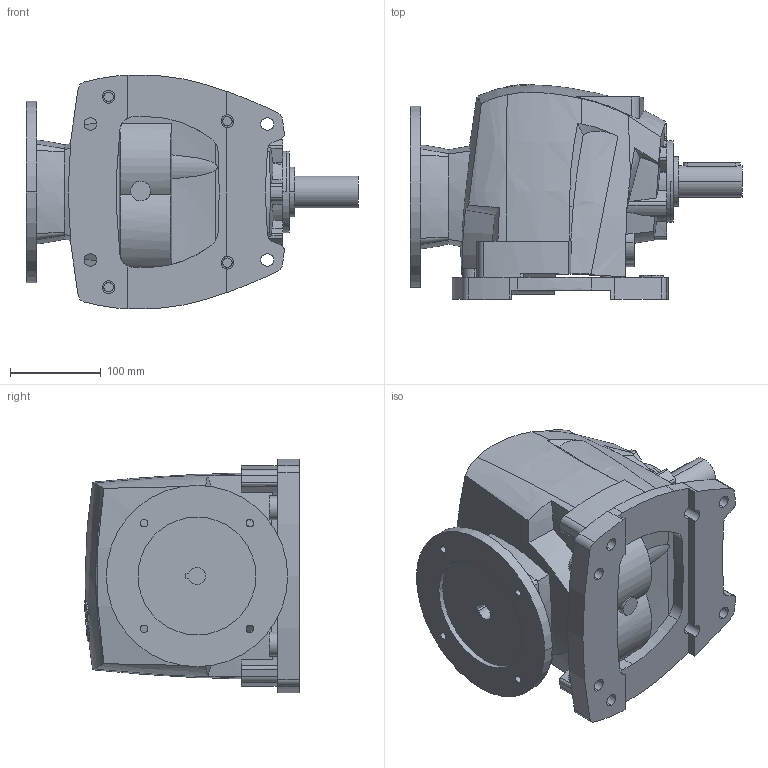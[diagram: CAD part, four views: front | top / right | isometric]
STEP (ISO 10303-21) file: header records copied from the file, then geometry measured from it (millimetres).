
FILE_DESCRIPTION((''),'2;1');
FILE_NAME('R35_SW_PAM80','2013-11-05T',('Luca'),(''),'PRO/ENGINEER BY PARAMETRIC TECHNOLOGY CORPORATION, 2008230','PRO/ENGINEER BY PARAMETRIC TECHNOLOGY CORPORATION, 2008230','');
FILE_SCHEMA(('CONFIG_CONTROL_DESIGN'));
Length unit declared in the file: millimetre
Products named in the file (1): R35_SW_PAM80
Bounding box: 366.06 x 236.95 x 257.96 mm (x, y, z)
Volume: 9668352.7 mm3; surface area: 444131.7 mm2
Topology: 1 solids, 9 shells, 502 faces, 1379 edges, 931 vertices
Faces by surface type: cylinder 179, plane 124, extrusion 101, bspline 67, cone 22, torus 9
Entity records: 25403 total; most frequent: CARTESIAN_POINT 13639, ORIENTED_EDGE 2754, DIRECTION 1833, EDGE_CURVE 1377, VERTEX_POINT 931, B_SPLINE_CURVE_WITH_KNOTS 707, AXIS2_PLACEMENT_3D 627, VECTOR 579
